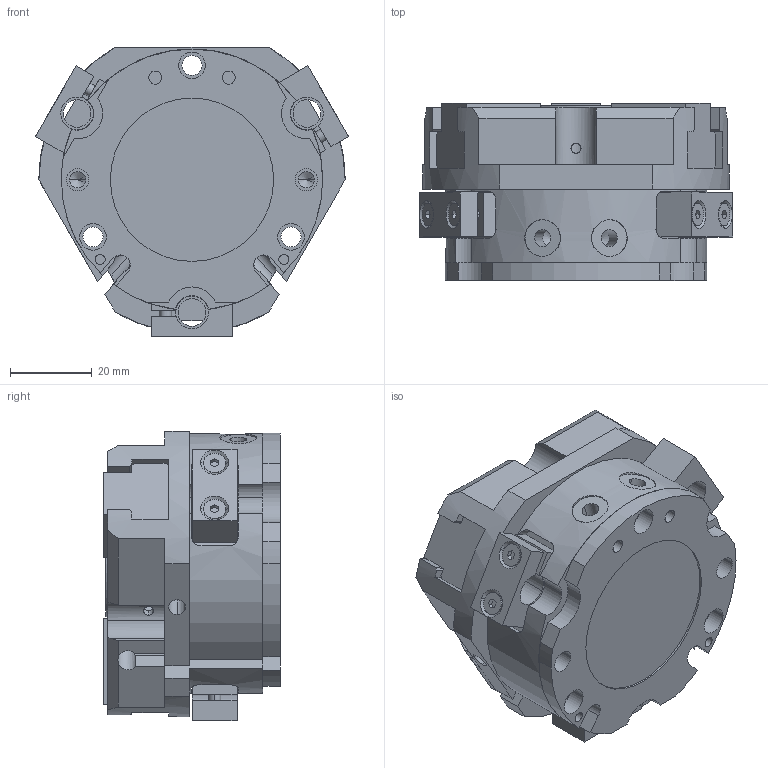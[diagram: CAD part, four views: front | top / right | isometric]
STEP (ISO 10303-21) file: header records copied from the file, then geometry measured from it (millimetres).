
FILE_DESCRIPTION (( 'STEP AP214' ), '1' );
FILE_NAME ('FCT-64A-1.STEP', '2020-07-07T10:48:02', ( '' ), ( '' ), 'SwSTEP 2.0', 'SolidWorks 2016', '' );
FILE_SCHEMA (( 'AUTOMOTIVE_DESIGN' ));
Length unit declared in the file: millimetre
Products named in the file (6): NAUO5; NAUO7; NAUO8; NAUO2; NAUO1; FCT-64A-1
Assembly tree (9 placements, depth 2):
  FCT-64A-1
    NAUO1
    NAUO2  x3
    NAUO5
    NAUO7
    NAUO8  x3
Bounding box: 76.68 x 43.3 x 71 mm (x, y, z)
Volume: 133033.1 mm3; surface area: 45272.7 mm2
Topology: 9 solids, 9 shells, 582 faces, 1497 edges, 953 vertices
Faces by surface type: plane 265, cylinder 217, cone 100
Entity records: 13345 total; most frequent: CARTESIAN_POINT 2915, DIRECTION 2203, ORIENTED_EDGE 2082, EDGE_CURVE 1041, AXIS2_PLACEMENT_3D 817, VERTEX_POINT 685, VECTOR 569, LINE 569
